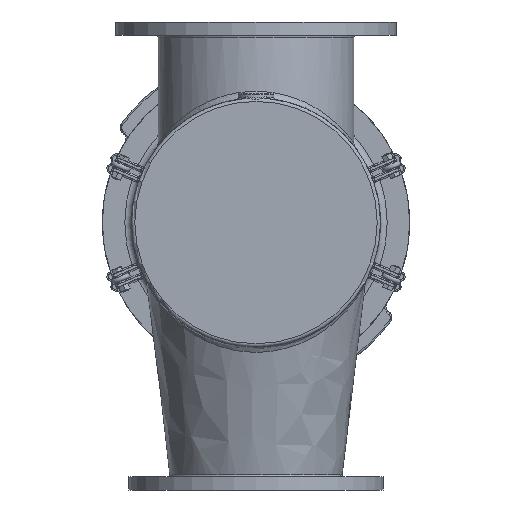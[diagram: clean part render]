
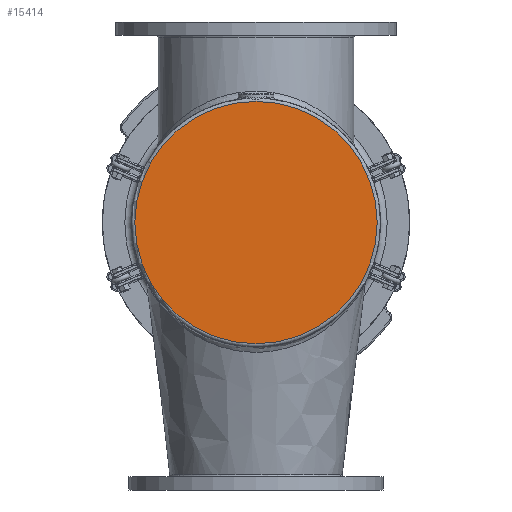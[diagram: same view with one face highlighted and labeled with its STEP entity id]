
A CAD part, front view. The second image highlights one B-rep face of the part: STEP entity #15414.
In plain terms, the highlighted planar face has unit normal (0, -1, 0).
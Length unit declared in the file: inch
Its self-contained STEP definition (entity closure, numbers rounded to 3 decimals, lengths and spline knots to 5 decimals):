
#2183=PLANE('',#16447);
#3475=FACE_OUTER_BOUND('',#4463,.T.);
#4463=EDGE_LOOP('',(#10267));
#5670=CIRCLE('',#16439,9.0625);
#6631=VERTEX_POINT('',#23560);
#8030=EDGE_CURVE('',#6631,#6631,#5670,.T.);
#10267=ORIENTED_EDGE('',*,*,#8030,.F.);
#15414=ADVANCED_FACE('',(#3475),#2183,.F.);
#16439=AXIS2_PLACEMENT_3D('',#23561,#18460,#18461);
#16447=AXIS2_PLACEMENT_3D('',#23572,#18476,#18477);
#18460=DIRECTION('center_axis',(0.,1.,0.));
#18461=DIRECTION('ref_axis',(1.,0.,0.));
#18476=DIRECTION('center_axis',(0.,1.,0.));
#18477=DIRECTION('ref_axis',(0.,0.,1.));
#23560=CARTESIAN_POINT('',(-9.0625,0.,0.));
#23561=CARTESIAN_POINT('Origin',(0.,0.,0.));
#23572=CARTESIAN_POINT('Origin',(0.,0.,0.));
